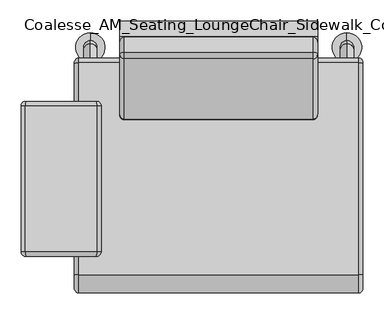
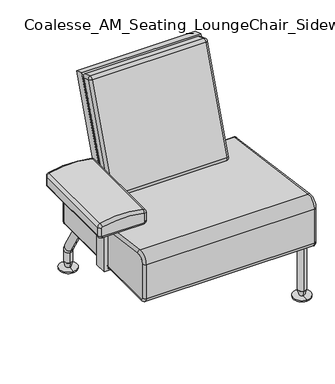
"""IFC4 building model written with IfcOpenShell, lengths in millimetres: furniture geometry, Coalesse_AM_Seating_LoungeChair_Sidewalk_Collaborative : Right Arm."""

from ifc_helpers import new_model, si_unit, point, frame, origin, place, context, project, spatial, polyline, circle_curve, ellipse_curve, trimmed, outline, extrude, source, transform, mapped, element, save
from ifc_brep_helpers import plane_surface, cylinder_surface, revolved_surface, advanced_brep


def coalesse_am_seating_loungechair_sidewalk_collaborative_right_7e27c2d4(model_context):
    return source(origin(), model_context, "Body", "SolidModel", [
        advanced_brep(
        [(122.9089794, 412.7742549, 335.1190448), (122.9089794, 414.1472627, 333.546102), (122.9089794, 414.1472627, 228.6), (122.9089794, 412.5597627, 227.0125), (122.9089794, -114.4902373, 227.0125), (122.9089794, -122.4277373, 234.95), (122.9089794, -122.4277373, 377.1837519), (122.9089794, -91.7938701, 403.9237811), (808.7089794, -91.7938701, 403.9237811), (808.7089794, -122.4277373, 377.1837519), (808.7089794, -122.4277373, 234.95), (808.7089794, -114.4902373, 227.0125), (808.7089794, 412.5597627, 227.0125), (808.7089794, 414.1472627, 228.6), (808.7089794, 414.1472627, 333.546102), (808.7089794, 412.7742549, 335.1190448), (797.5964794, -90.2924248, 414.9343814), (797.5964794, 414.2757002, 346.1296451), (134.0214794, 414.2757002, 346.1296451), (134.0214794, -90.2924248, 414.9343814), (797.5964794, 425.2597627, 333.546102), (134.0214794, 425.2597627, 333.546102), (797.5964794, 425.2597627, 228.6), (134.0214794, 425.2597627, 228.6), (797.5964794, 412.5597627, 215.9), (134.0214794, 412.5597627, 215.9), (797.5964794, -114.4902373, 215.9), (134.0214794, -114.4902373, 215.9), (797.5964794, -133.5402373, 234.95), (134.0214726, -133.5402373, 234.95), (797.5964794, -133.5402373, 377.1837519), (134.0214794, -133.5402373, 377.1837519)],
        [
            (0, 1, circle_curve(frame((122.9089794, 412.5597627, 333.546102), z_axis=(-1.0, 0.0, 0.0), x_axis=(0.0, 0.13511318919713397, 0.9908301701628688)), 1.5875)),
            (1, 2),
            (2, 3, circle_curve(frame((122.9089794, 412.5597627, 228.6), z_axis=(-1.0, 0.0, 0.0), x_axis=(0.0, 1.0, 0.0)), 1.5875)),
            (3, 4),
            (4, 5, circle_curve(frame((122.9089794, -114.4902373, 234.95), z_axis=(-1.0, 0.0, 0.0), x_axis=(0.0, 0.0, -1.0)), 7.9375)),
            (5, 6),
            (6, 7, circle_curve(frame((122.9089794, -95.4402373, 377.1837519), z_axis=(-1.0, 0.0, 0.0), x_axis=(0.0, -1.0, 0.0)), 26.9875)),
            (7, 0),
            (8, 9, circle_curve(frame((808.7089794, -95.4402373, 377.1837519), z_axis=(1.0, 0.0, 0.0), x_axis=(0.0, 0.13511318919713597, 0.9908301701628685)), 26.9875)),
            (9, 10),
            (10, 11, circle_curve(frame((808.7089794, -114.4902373, 234.95), z_axis=(1.0, 0.0, 0.0), x_axis=(0.0, -1.0, 0.0)), 7.9375)),
            (11, 12),
            (12, 13, circle_curve(frame((808.7089794, 412.5597627, 228.6), z_axis=(1.0, 0.0, 0.0), x_axis=(0.0, 0.0, -1.0)), 1.5875)),
            (13, 14),
            (14, 15, circle_curve(frame((808.7089794, 412.5597627, 333.546102), z_axis=(1.0, 0.0, 0.0), x_axis=(0.0, 1.0, 0.0)), 1.5875)),
            (15, 8),
            (16, 17),
            (17, 18),
            (18, 19),
            (19, 16),
            (17, 20, circle_curve(frame((797.5964794, 412.5597627, 333.546102), z_axis=(-1.0, 0.0, 0.0), x_axis=(0.0, -1.0, 0.0)), 12.7)),
            (20, 21),
            (21, 18, circle_curve(frame((134.0214794, 412.5597627, 333.546102), z_axis=(1.0, 0.0, 0.0), x_axis=(0.0, -1.0, 0.0)), 12.7)),
            (20, 22),
            (22, 23),
            (23, 21),
            (22, 24, circle_curve(frame((797.5964794, 412.5597627, 228.6), z_axis=(-1.0, 0.0, 0.0), x_axis=(0.0, -1.0, 0.0)), 12.7)),
            (24, 25),
            (25, 23, circle_curve(frame((134.0214794, 412.5597627, 228.6), z_axis=(1.0, 0.0, 0.0), x_axis=(0.0, -1.0, 0.0)), 12.7)),
            (24, 26),
            (26, 27),
            (27, 25),
            (26, 28, circle_curve(frame((797.5964794, -114.4902373, 234.95), z_axis=(-1.0, 0.0, 0.0), x_axis=(0.0, -1.0, 0.0)), 19.05)),
            (28, 29),
            (29, 27, circle_curve(frame((134.0214794, -114.4902373, 234.95), z_axis=(1.0, 0.0, 0.0), x_axis=(0.0, -1.0, 0.0)), 19.05)),
            (28, 30),
            (30, 31),
            (31, 29),
            (30, 16, circle_curve(frame((797.5964794, -95.4402373, 377.1837519), z_axis=(-1.0, 0.0, 0.0), x_axis=(0.0, -1.0, 0.0)), 38.1)),
            (19, 31, circle_curve(frame((134.0214794, -95.4402373, 377.1837519), z_axis=(1.0, 0.0, 0.0), x_axis=(0.0, -1.0, 0.0)), 38.1)),
            (30, 9, circle_curve(frame((797.5964794, -122.4277373, 377.1837519), z_axis=(0.0, 0.0, 0.9999999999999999), x_axis=(0.0, -0.9999999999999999, 0.0)), 11.1125)),
            (8, 16, circle_curve(frame((797.5964794, -91.7938701, 403.9237811), z_axis=(0.0, -0.9908301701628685, 0.13511318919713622), x_axis=(0.0, 0.13511318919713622, 0.9908301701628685)), 11.1125)),
            (28, 10, circle_curve(frame((797.5964794, -122.4277373, 234.95), z_axis=(0.0, 0.0, 1.0), x_axis=(0.0, -1.0, 0.0)), 11.1125)),
            (26, 11, circle_curve(frame((797.5964794, -114.4902373, 227.0125), z_axis=(0.0, -1.0, 0.0), x_axis=(0.0, 0.0, -1.0)), 11.1125)),
            (24, 12, circle_curve(frame((797.5964794, 412.5597627, 227.0125), z_axis=(0.0, -1.0, 0.0), x_axis=(0.0, 0.0, -1.0)), 11.1125)),
            (22, 13, circle_curve(frame((797.5964794, 414.1472627, 228.6), z_axis=(0.0, 0.0, -1.0), x_axis=(0.0, 1.0, 0.0)), 11.1125)),
            (20, 14, circle_curve(frame((797.5964794, 414.1472627, 333.546102), z_axis=(0.0, 0.0, -1.0), x_axis=(0.0, 1.0, 0.0)), 11.1125)),
            (17, 15, circle_curve(frame((797.5964794, 412.7742549, 335.1190448), z_axis=(0.0, 0.9908301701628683, -0.13511318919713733), x_axis=(0.0, 0.13511318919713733, 0.9908301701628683)), 11.1125)),
            (21, 1, circle_curve(frame((134.0214794, 414.1472627, 333.546102), z_axis=(0.0, 0.0, 1.0), x_axis=(0.0, -1.0, 0.0)), 11.1125)),
            (0, 18, circle_curve(frame((134.0214794, 412.7742549, 335.1190448), z_axis=(0.0, 0.9908301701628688, -0.13511318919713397), x_axis=(0.0, -0.13511318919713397, -0.9908301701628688)), 11.1125)),
            (23, 2, circle_curve(frame((134.0214794, 414.1472627, 228.6), z_axis=(0.0, 0.0, 1.0), x_axis=(0.0, -1.0, 0.0)), 11.1125)),
            (25, 3, circle_curve(frame((134.0214794, 412.5597627, 227.0125), z_axis=(0.0, 1.0, 0.0), x_axis=(0.0, 0.0, 1.0)), 11.1125)),
            (27, 4, circle_curve(frame((134.0214794, -114.4902373, 227.0125), z_axis=(0.0, 1.0, 0.0), x_axis=(0.0, 0.0, 1.0)), 11.1125)),
            (29, 5, circle_curve(frame((134.0214794, -122.4277373, 234.95), z_axis=(0.0, 0.0, -1.0), x_axis=(0.0, 1.0, 0.0)), 11.1125)),
            (31, 6, circle_curve(frame((134.0214794, -122.4277373, 377.1837519), z_axis=(0.0, 0.0, -1.0), x_axis=(0.0, 1.0, 0.0)), 11.1125)),
            (19, 7, circle_curve(frame((134.0214794, -91.7938701, 403.9237811), z_axis=(0.0, -0.9908301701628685, 0.1351131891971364), x_axis=(0.0, -0.1351131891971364, -0.9908301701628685)), 11.1125)),
        ],
        [
            plane_surface(frame((122.9089794, 564.9597627, 325.5818208), z_axis=(-1.0000000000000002, 0.0, 0.0), x_axis=(0.0, 0.9908301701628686, -0.1351131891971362))),
            plane_surface(frame((808.7089794, 564.9597627, 325.5818208), z_axis=(1.0000000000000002, 0.0, 0.0), x_axis=(0.0, -0.9908301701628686, 0.1351131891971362))),
            plane_surface(frame((122.9089794, -90.2924248, 414.9343814), z_axis=(0.0, 0.1351131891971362, 0.9908301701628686), x_axis=(1.0, 0.0, 0.0))),
            cylinder_surface(frame((808.7089794, 412.5597627, 333.546102), z_axis=(-1.0, 0.0, 0.0), x_axis=(0.0, -1.0, 0.0)), 12.7),
            plane_surface(frame((122.9089794, 425.2597627, 333.546102), z_axis=(0.0, 1.0, 0.0), x_axis=(1.0, 0.0, 0.0))),
            cylinder_surface(frame((808.7089794, 412.5597627, 228.6), z_axis=(-1.0, 0.0, 0.0), x_axis=(0.0, -1.0, 0.0)), 12.7),
            plane_surface(frame((122.9089794, 412.5597627, 215.9), z_axis=(0.0, 0.0, -1.0), x_axis=(1.0, 0.0, 0.0))),
            cylinder_surface(frame((808.7089794, -114.4902373, 234.95), z_axis=(-1.0, 0.0, 0.0), x_axis=(0.0, -1.0, 0.0)), 19.05),
            plane_surface(frame((122.9089794, -133.5402373, 234.95), z_axis=(0.0, -1.0, 0.0), x_axis=(1.0, 0.0, 0.0))),
            cylinder_surface(frame((808.7089794, -95.4402373, 377.1837519), z_axis=(-1.0, 0.0, 0.0), x_axis=(0.0, -1.0, 0.0)), 38.1),
            revolved_surface(trimmed(ellipse_curve(frame((797.5964794, -91.7938701, 403.9237811), z_axis=(0.0, 0.9908301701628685, -0.13511318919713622), x_axis=(0.0, 0.13511318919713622, 0.9908301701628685)), 11.1125, 11.1125), [point((797.5964794, -90.2924248, 414.9343814))], [point((808.7089794, -91.7938701, 403.9237811))], True, "CARTESIAN"), (808.7089794, -95.4402373, 377.1837519), (1.0, 0.0, 0.0)),
            cylinder_surface(frame((797.5964794, -122.4277373, 377.1837519), z_axis=(0.0, 0.0, -1.0), x_axis=(0.0, -1.0, 0.0)), 11.1125),
            revolved_surface(trimmed(ellipse_curve(frame((797.5964794, -122.4277373, 234.95), z_axis=(0.0, 0.0, 1.0), x_axis=(0.0, -1.0, 0.0)), 11.1125, 11.1125), [point((797.5964794, -133.5402373, 234.95))], [point((808.7089794, -122.4277373, 234.95))], True, "CARTESIAN"), (808.7089794, -114.4902373, 234.95), (1.0, 0.0, 0.0)),
            cylinder_surface(frame((797.5964794, -114.4902373, 227.0125), z_axis=(0.0, 1.0, 0.0), x_axis=(0.0, 0.0, -1.0)), 11.1125),
            revolved_surface(trimmed(ellipse_curve(frame((797.5964794, 412.5597627, 227.0125), z_axis=(0.0, -1.0, 0.0), x_axis=(0.0, 0.0, -1.0)), 11.1125, 11.1125), [point((797.5964794, 412.5597627, 215.9))], [point((808.7089794, 412.5597627, 227.0125))], True, "CARTESIAN"), (808.7089794, 412.5597627, 228.6), (1.0, 0.0, 0.0)),
            cylinder_surface(frame((797.5964794, 414.1472627, 228.6), z_axis=(0.0, 0.0, 1.0), x_axis=(0.0, 1.0, 0.0)), 11.1125),
            revolved_surface(trimmed(ellipse_curve(frame((797.5964794, 414.1472627, 333.546102), z_axis=(0.0, 0.0, -1.0), x_axis=(0.0, 1.0, 0.0)), 11.1125, 11.1125), [point((797.5964794, 425.2597627, 333.546102))], [point((808.7089794, 414.1472627, 333.546102))], True, "CARTESIAN"), (808.7089794, 412.5597627, 333.546102), (1.0, 0.0, 0.0)),
            cylinder_surface(frame((797.5964794, 412.7742549, 335.1190448), z_axis=(0.0, -0.9908301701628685, 0.13511318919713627), x_axis=(0.0, 0.13511318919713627, 0.9908301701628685)), 11.1125),
            revolved_surface(trimmed(ellipse_curve(frame((134.0214794, 412.7742549, 335.1190448), z_axis=(0.0, -0.9908301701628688, 0.13511318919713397), x_axis=(0.0, -0.13511318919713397, -0.9908301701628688)), 11.1125, 11.1125), [point((134.0214794, 414.2757002, 346.1296451))], [point((122.9089794, 412.7742549, 335.1190448))], True, "CARTESIAN"), (122.9089794, 412.5597627, 333.546102), (-1.0, 0.0, 0.0)),
            cylinder_surface(frame((134.0214794, 414.1472627, 333.546102), z_axis=(0.0, 0.0, -1.0), x_axis=(0.0, -1.0, 0.0)), 11.1125),
            revolved_surface(trimmed(ellipse_curve(frame((134.0214794, 414.1472627, 228.6), z_axis=(0.0, 0.0, 1.0), x_axis=(0.0, -1.0, 0.0)), 11.1125, 11.1125), [point((134.0214794, 425.2597627, 228.6))], [point((122.9089794, 414.1472627, 228.6))], True, "CARTESIAN"), (122.9089794, 412.5597627, 228.6), (-1.0, 0.0, 0.0)),
            cylinder_surface(frame((134.0214794, 412.5597627, 227.0125), z_axis=(0.0, -1.0, 0.0), x_axis=(0.0, 0.0, 1.0)), 11.1125),
            revolved_surface(trimmed(ellipse_curve(frame((134.0214794, -114.4902373, 227.0125), z_axis=(0.0, 1.0, 0.0), x_axis=(0.0, 0.0, 1.0)), 11.1125, 11.1125), [point((134.0214794, -114.4902373, 215.9))], [point((122.9089794, -114.4902373, 227.0125))], True, "CARTESIAN"), (122.9089794, -114.4902373, 234.95), (-1.0, 0.0, 0.0)),
            cylinder_surface(frame((134.0214794, -122.4277373, 234.95), z_axis=(0.0, 0.0, 1.0), x_axis=(0.0, 1.0, 0.0)), 11.1125),
            revolved_surface(trimmed(ellipse_curve(frame((134.0214794, -122.4277373, 377.1837519), z_axis=(0.0, 0.0, -1.0), x_axis=(0.0, 1.0, 0.0)), 11.1125, 11.1125), [point((134.0214794, -133.5402373, 377.1837519))], [point((122.9089794, -122.4277373, 377.1837519))], True, "CARTESIAN"), (122.9089794, -95.4402373, 377.1837519), (-1.0, 0.0, 0.0)),
            cylinder_surface(frame((134.0214794, -91.7938701, 403.9237811), z_axis=(0.0, 0.9908301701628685, -0.1351131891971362), x_axis=(0.0, -0.1351131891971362, -0.9908301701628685)), 11.1125),
        ],
        [
            (0, [[1, 2, 3, 4, 5, 6, 7, 8]]),
            (1, [[9, 10, 11, 12, 13, 14, 15, 16]]),
            (2, [[17, 18, 19, 20]]),
            (3, [[21, 22, 23, -18]]),
            (4, [[24, 25, 26, -22]]),
            (5, [[27, 28, 29, -25]]),
            (6, [[30, 31, 32, -28]]),
            (7, [[33, 34, 35, -31]]),
            (8, [[36, 37, 38, -34]]),
            (9, [[39, -20, 40, -37]]),
            (10, [[41, -9, 42, -39]]),
            (11, [[-41, -36, 43, -10]]),
            (12, [[-43, -33, 44, -11]]),
            (13, [[-44, -30, 45, -12]]),
            (14, [[-45, -27, 46, -13]]),
            (15, [[-46, -24, 47, -14]]),
            (16, [[-47, -21, 48, -15]]),
            (17, [[-42, -16, -48, -17]]),
            (18, [[49, -1, 50, -23]]),
            (19, [[-49, -26, 51, -2]]),
            (20, [[-51, -29, 52, -3]]),
            (21, [[-52, -32, 53, -4]]),
            (22, [[-53, -35, 54, -5]]),
            (23, [[-54, -38, 55, -6]]),
            (24, [[-55, -40, 56, -7]]),
            (25, [[-50, -8, -56, -19]]),
        ],
    ),
        advanced_brep(
        [(8.8567727, -46.3480901, 525.1102695), (7.6454268, -46.3480901, 523.5679776), (7.6454268, -46.3480901, 488.95), (9.2329268, -46.3480901, 487.3625), (174.3329268, -46.3480901, 487.3625), (175.9204268, -46.3480901, 488.95), (175.9204268, -46.3480901, 523.5679776), (174.7090809, -46.3480901, 525.1102695), (174.7090809, 321.9519099, 525.1102695), (175.9204268, 321.9519099, 523.5679776), (175.9204268, 321.9519099, 488.95), (174.3329268, 321.9519099, 487.3625), (9.2329268, 321.9519099, 487.3625), (7.6454268, 321.9519099, 488.95), (7.6454268, 321.9519099, 523.5679776), (8.8567727, 321.9519099, 525.1102695), (174.3329268, 310.8394099, 476.25), (187.0329268, 310.8394099, 488.95), (187.0329268, -35.2355901, 488.95), (174.3329268, -35.2355901, 476.25), (187.0329268, 310.8394099, 523.5679776), (187.0329268, -35.2355901, 523.5679776), (177.3421596, 310.8394099, 535.9063129), (177.3421596, -35.2355901, 535.9063129), (6.2236939, 310.8394099, 535.9063129), (6.2236939, -35.2355901, 535.9063129), (-3.4670732, 310.8394099, 523.5679776), (-3.4670732, -35.2355901, 523.5679776), (-3.4670732, 310.8394099, 488.95), (-3.4670732, -35.2355901, 488.95), (9.2329268, 310.8394099, 476.25), (9.2329268, -35.2355901, 476.25)],
        [
            (0, 1, circle_curve(frame((9.2329268, -46.3480901, 523.5679776), z_axis=(0.0, -1.0, 0.0), x_axis=(-0.23694746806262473, 0.0, 0.9715224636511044)), 1.5875)),
            (1, 2),
            (2, 3, circle_curve(frame((9.2329268, -46.3480901, 488.95), z_axis=(0.0, -1.0, 0.0), x_axis=(-1.0, 0.0, 0.0)), 1.5875)),
            (3, 4),
            (4, 5, circle_curve(frame((174.3329268, -46.3480901, 488.95), z_axis=(0.0, -1.0, 0.0), x_axis=(0.0, 0.0, -1.0)), 1.5875)),
            (5, 6),
            (6, 7, circle_curve(frame((174.3329268, -46.3480901, 523.5679776), z_axis=(0.0, -1.0, 0.0), x_axis=(1.0, 0.0, 0.0)), 1.5875)),
            (7, 0, circle_curve(frame((91.7829268, -46.3480901, 185.0997929), z_axis=(0.0, -1.0, 0.0), x_axis=(0.2369474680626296, 0.0, 0.9715224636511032)), 349.9769581)),
            (8, 9, circle_curve(frame((174.3329268, 321.9519099, 523.5679776), z_axis=(0.0, 1.0, 0.0), x_axis=(0.23694746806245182, 0.0, 0.9715224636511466)), 1.5875)),
            (9, 10),
            (10, 11, circle_curve(frame((174.3329268, 321.9519099, 488.95), z_axis=(0.0, 1.0, 0.0), x_axis=(1.0, 0.0, 0.0)), 1.5875)),
            (11, 12),
            (12, 13, circle_curve(frame((9.2329268, 321.9519099, 488.95), z_axis=(0.0, 1.0, 0.0), x_axis=(0.0, 0.0, -1.0)), 1.5875)),
            (13, 14),
            (14, 15, circle_curve(frame((9.2329268, 321.9519099, 523.5679776), z_axis=(0.0, 1.0, 0.0), x_axis=(-1.0, 0.0, 0.0)), 1.5875)),
            (15, 8, circle_curve(frame((91.7829268, 321.9519099, 185.0997929), z_axis=(0.0, 1.0, 0.0), x_axis=(-0.23694746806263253, 0.0, 0.9715224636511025)), 349.9769581)),
            (16, 17, circle_curve(frame((174.3329268, 310.8394099, 488.95), z_axis=(0.0, -1.0, 0.0), x_axis=(1.0, 0.0, 0.0)), 12.7)),
            (17, 18),
            (18, 19, circle_curve(frame((174.3329268, -35.2355901, 488.95), z_axis=(0.0, 1.0, 0.0), x_axis=(1.0, 0.0, 0.0)), 12.7)),
            (19, 16),
            (17, 20),
            (20, 21),
            (21, 18),
            (20, 22, circle_curve(frame((174.3329268, 310.8394099, 523.5679776), z_axis=(0.0, -1.0, 0.0), x_axis=(1.0, 0.0, 0.0)), 12.7)),
            (22, 23),
            (23, 21, circle_curve(frame((174.3329268, -35.2355901, 523.5679776), z_axis=(0.0, 1.0, 0.0), x_axis=(1.0, 0.0, 0.0)), 12.7)),
            (22, 24, circle_curve(frame((91.7829268, 310.8394099, 185.0997929), z_axis=(0.0, -1.0, 0.0), x_axis=(1.0, 0.0, 0.0)), 361.0894581)),
            (24, 25),
            (25, 23, circle_curve(frame((91.7829268, -35.2355901, 185.0997929), z_axis=(0.0, 1.0, 0.0), x_axis=(1.0, 0.0, 0.0)), 361.0894581)),
            (24, 26, circle_curve(frame((9.2329268, 310.8394099, 523.5679776), z_axis=(0.0, -1.0, 0.0), x_axis=(1.0, 0.0, 0.0)), 12.7)),
            (26, 27),
            (27, 25, circle_curve(frame((9.2329268, -35.2355901, 523.5679776), z_axis=(0.0, 1.0, 0.0), x_axis=(1.0, 0.0, 0.0)), 12.7)),
            (26, 28),
            (28, 29),
            (29, 27),
            (28, 30, circle_curve(frame((9.2329268, 310.8394099, 488.95), z_axis=(0.0, -1.0, 0.0), x_axis=(1.0, 0.0, 0.0)), 12.7)),
            (30, 31),
            (31, 29, circle_curve(frame((9.2329268, -35.2355901, 488.95), z_axis=(0.0, 1.0, 0.0), x_axis=(1.0, 0.0, 0.0)), 12.7)),
            (30, 16),
            (19, 31),
            (20, 9, circle_curve(frame((175.9204268, 310.8394099, 523.5679776), z_axis=(0.0, 0.0, 1.0), x_axis=(1.0, 0.0, 0.0)), 11.1125)),
            (8, 22, circle_curve(frame((174.7090809, 310.8394099, 525.1102695), z_axis=(0.9715224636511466, 0.0, -0.23694746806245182), x_axis=(0.23694746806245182, 0.0, 0.9715224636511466)), 11.1125)),
            (17, 10, circle_curve(frame((175.9204268, 310.8394099, 488.95), z_axis=(0.0, 0.0, 1.0), x_axis=(1.0, 0.0, 0.0)), 11.1125)),
            (16, 11, circle_curve(frame((174.3329268, 310.8394099, 487.3625), z_axis=(1.0, 0.0, 0.0), x_axis=(0.0, 0.0, -1.0)), 11.1125)),
            (30, 12, circle_curve(frame((9.2329268, 310.8394099, 487.3625), z_axis=(1.0, 0.0, 0.0), x_axis=(0.0, 0.0, -1.0)), 11.1125)),
            (28, 13, circle_curve(frame((7.6454268, 310.8394099, 488.95), z_axis=(0.0, 0.0, -1.0), x_axis=(-1.0, 0.0, 0.0)), 11.1125)),
            (26, 14, circle_curve(frame((7.6454268, 310.8394099, 523.5679776), z_axis=(0.0, 0.0, -1.0), x_axis=(-1.0, 0.0, 0.0)), 11.1125)),
            (24, 15, circle_curve(frame((8.8567727, 310.8394099, 525.1102695), z_axis=(-0.9715224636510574, 0.0, -0.23694746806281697), x_axis=(-0.23694746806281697, 0.0, 0.9715224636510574)), 11.1125)),
            (27, 1, circle_curve(frame((7.6454268, -35.2355901, 523.5679776), z_axis=(0.0, 0.0, 1.0), x_axis=(1.0, 0.0, 0.0)), 11.1125)),
            (0, 25, circle_curve(frame((8.8567727, -35.2355901, 525.1102695), z_axis=(-0.9715224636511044, 0.0, -0.2369474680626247), x_axis=(0.2369474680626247, 0.0, -0.9715224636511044)), 11.1125)),
            (29, 2, circle_curve(frame((7.6454268, -35.2355901, 488.95), z_axis=(0.0, 0.0, 1.0), x_axis=(1.0, 0.0, 0.0)), 11.1125)),
            (31, 3, circle_curve(frame((9.2329268, -35.2355901, 487.3625), z_axis=(-1.0, 0.0, 0.0), x_axis=(0.0, 0.0, 1.0)), 11.1125)),
            (19, 4, circle_curve(frame((174.3329268, -35.2355901, 487.3625), z_axis=(-1.0, 0.0, 0.0), x_axis=(0.0, 0.0, 1.0)), 11.1125)),
            (18, 5, circle_curve(frame((175.9204268, -35.2355901, 488.95), z_axis=(0.0, 0.0, -1.0), x_axis=(-1.0, 0.0, 0.0)), 11.1125)),
            (21, 6, circle_curve(frame((175.9204268, -35.2355901, 523.5679776), z_axis=(0.0, 0.0, -1.0), x_axis=(-1.0, 0.0, 0.0)), 11.1125)),
            (23, 7, circle_curve(frame((174.7090809, -35.2355901, 525.1102695), z_axis=(0.971522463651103, 0.0, -0.23694746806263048), x_axis=(-0.23694746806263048, 0.0, -0.971522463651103)), 11.1125)),
        ],
        [
            plane_surface(frame((187.0329268, -46.3480901, 488.95), z_axis=(0.0, -1.0, 0.0), x_axis=(0.0, 0.0, 1.0))),
            plane_surface(frame((187.0329268, 321.9519099, 488.95), z_axis=(0.0, 1.0, 0.0), x_axis=(0.0, 0.0, -1.0))),
            cylinder_surface(frame((174.3329268, 321.9519099, 488.95), z_axis=(0.0, -1.0, 0.0), x_axis=(1.0, 0.0, 0.0)), 12.7),
            plane_surface(frame((187.0329268, -46.3480901, 488.95), z_axis=(1.0, 0.0, 0.0), x_axis=(0.0, 1.0, 0.0))),
            cylinder_surface(frame((174.3329268, 321.9519099, 523.5679776), z_axis=(0.0, -1.0, 0.0), x_axis=(1.0, 0.0, 0.0)), 12.7),
            cylinder_surface(frame((91.7829268, 321.9519099, 185.0997929), z_axis=(0.0, -1.0, 0.0), x_axis=(1.0, 0.0, 0.0)), 361.0894581),
            cylinder_surface(frame((9.2329268, 321.9519099, 523.5679776), z_axis=(0.0, -1.0, 0.0), x_axis=(1.0, 0.0, 0.0)), 12.7),
            plane_surface(frame((-3.4670732, -46.3480901, 523.5679776), z_axis=(-1.0, 0.0, 0.0), x_axis=(0.0, 1.0, 0.0))),
            cylinder_surface(frame((9.2329268, 321.9519099, 488.95), z_axis=(0.0, -1.0, 0.0), x_axis=(1.0, 0.0, 0.0)), 12.7),
            plane_surface(frame((9.2329268, -46.3480901, 476.25), z_axis=(0.0, 0.0, -1.0), x_axis=(0.0, 1.0, 0.0))),
            revolved_surface(trimmed(ellipse_curve(frame((174.7090809, 310.8394099, 525.1102695), z_axis=(-0.9715224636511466, 0.0, 0.23694746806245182), x_axis=(0.23694746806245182, 0.0, 0.9715224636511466)), 11.1125, 11.1125), [point((177.3421596, 310.8394099, 535.9063129))], [point((174.7090809, 321.9519099, 525.1102695))], True, "CARTESIAN"), (174.3329268, 321.9519099, 523.5679776), (0.0, 1.0, 0.0)),
            cylinder_surface(frame((175.9204268, 310.8394099, 523.5679776), z_axis=(0.0, 0.0, -1.0), x_axis=(1.0, 0.0, 0.0)), 11.1125),
            revolved_surface(trimmed(ellipse_curve(frame((175.9204268, 310.8394099, 488.95), z_axis=(0.0, 0.0, 1.0), x_axis=(1.0, 0.0, 0.0)), 11.1125, 11.1125), [point((187.0329268, 310.8394099, 488.95))], [point((175.9204268, 321.9519099, 488.95))], True, "CARTESIAN"), (174.3329268, 321.9519099, 488.95), (0.0, 1.0, 0.0)),
            cylinder_surface(frame((174.3329268, 310.8394099, 487.3625), z_axis=(-1.0, 0.0, 0.0), x_axis=(0.0, 0.0, -1.0)), 11.1125),
            revolved_surface(trimmed(ellipse_curve(frame((9.2329268, 310.8394099, 487.3625), z_axis=(1.0, 0.0, 0.0), x_axis=(0.0, 0.0, -1.0)), 11.1125, 11.1125), [point((9.2329268, 310.8394099, 476.25))], [point((9.2329268, 321.9519099, 487.3625))], True, "CARTESIAN"), (9.2329268, 321.9519099, 488.95), (0.0, 1.0, 0.0)),
            cylinder_surface(frame((7.6454268, 310.8394099, 488.95), z_axis=(0.0, 0.0, 1.0), x_axis=(-1.0, 0.0, 0.0)), 11.1125),
            revolved_surface(trimmed(ellipse_curve(frame((7.6454268, 310.8394099, 523.5679776), z_axis=(0.0, 0.0, -1.0), x_axis=(-1.0, 0.0, 0.0)), 11.1125, 11.1125), [point((-3.4670732, 310.8394099, 523.5679776))], [point((7.6454268, 321.9519099, 523.5679776))], True, "CARTESIAN"), (9.2329268, 321.9519099, 523.5679776), (0.0, 1.0, 0.0)),
            revolved_surface(trimmed(ellipse_curve(frame((8.8567727, 310.8394099, 525.1102695), z_axis=(-0.9715224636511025, 0.0, -0.23694746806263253), x_axis=(-0.23694746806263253, 0.0, 0.9715224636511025)), 11.1125, 11.1125), [point((6.2236939, 310.8394099, 535.9063129))], [point((8.8567727, 321.9519099, 525.1102695))], True, "CARTESIAN"), (91.7829268, 321.9519099, 185.0997929), (0.0, 1.0, 0.0)),
            revolved_surface(trimmed(ellipse_curve(frame((8.8567727, -35.2355901, 525.1102695), z_axis=(0.9715224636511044, 0.0, 0.2369474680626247), x_axis=(0.2369474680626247, 0.0, -0.9715224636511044)), 11.1125, 11.1125), [point((6.2236939, -35.2355901, 535.9063129))], [point((8.8567727, -46.3480901, 525.1102695))], True, "CARTESIAN"), (9.2329268, -46.3480901, 523.5679776), (0.0, -1.0, 0.0)),
            cylinder_surface(frame((7.6454268, -35.2355901, 523.5679776), z_axis=(0.0, 0.0, -1.0), x_axis=(1.0, 0.0, 0.0)), 11.1125),
            revolved_surface(trimmed(ellipse_curve(frame((7.6454268, -35.2355901, 488.95), z_axis=(0.0, 0.0, 1.0), x_axis=(1.0, 0.0, 0.0)), 11.1125, 11.1125), [point((-3.4670732, -35.2355901, 488.95))], [point((7.6454268, -46.3480901, 488.95))], True, "CARTESIAN"), (9.2329268, -46.3480901, 488.95), (0.0, -1.0, 0.0)),
            cylinder_surface(frame((9.2329268, -35.2355901, 487.3625), z_axis=(1.0, 0.0, 0.0), x_axis=(0.0, 0.0, 1.0)), 11.1125),
            revolved_surface(trimmed(ellipse_curve(frame((174.3329268, -35.2355901, 487.3625), z_axis=(-1.0, 0.0, 0.0), x_axis=(0.0, 0.0, 1.0)), 11.1125, 11.1125), [point((174.3329268, -35.2355901, 476.25))], [point((174.3329268, -46.3480901, 487.3625))], True, "CARTESIAN"), (174.3329268, -46.3480901, 488.95), (0.0, -1.0, 0.0)),
            cylinder_surface(frame((175.9204268, -35.2355901, 488.95), z_axis=(0.0, 0.0, 1.0), x_axis=(-1.0, 0.0, 0.0)), 11.1125),
            revolved_surface(trimmed(ellipse_curve(frame((175.9204268, -35.2355901, 523.5679776), z_axis=(0.0, 0.0, -1.0), x_axis=(-1.0, 0.0, 0.0)), 11.1125, 11.1125), [point((187.0329268, -35.2355901, 523.5679776))], [point((175.9204268, -46.3480901, 523.5679776))], True, "CARTESIAN"), (174.3329268, -46.3480901, 523.5679776), (0.0, -1.0, 0.0)),
            revolved_surface(trimmed(ellipse_curve(frame((174.7090809, -35.2355901, 525.1102695), z_axis=(0.9715224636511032, 0.0, -0.23694746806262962), x_axis=(-0.23694746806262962, 0.0, -0.9715224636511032)), 11.1125, 11.1125), [point((177.3421596, -35.2355901, 535.9063129))], [point((174.7090809, -46.3480901, 525.1102695))], True, "CARTESIAN"), (91.7829268, -46.3480901, 185.0997929), (0.0, -1.0, 0.0)),
        ],
        [
            (0, [[1, 2, 3, 4, 5, 6, 7, 8]]),
            (1, [[9, 10, 11, 12, 13, 14, 15, 16]]),
            (2, [[17, 18, 19, 20]]),
            (3, [[21, 22, 23, -18]]),
            (4, [[24, 25, 26, -22]]),
            (5, [[27, 28, 29, -25]]),
            (6, [[30, 31, 32, -28]]),
            (7, [[33, 34, 35, -31]]),
            (8, [[36, 37, 38, -34]]),
            (9, [[39, -20, 40, -37]]),
            (10, [[41, -9, 42, -24]]),
            (11, [[-41, -21, 43, -10]]),
            (12, [[-43, -17, 44, -11]]),
            (13, [[-44, -39, 45, -12]]),
            (14, [[-45, -36, 46, -13]]),
            (15, [[-46, -33, 47, -14]]),
            (16, [[-47, -30, 48, -15]]),
            (17, [[-42, -16, -48, -27]]),
            (18, [[49, -1, 50, -32]]),
            (19, [[-49, -35, 51, -2]]),
            (20, [[-51, -38, 52, -3]]),
            (21, [[-52, -40, 53, -4]]),
            (22, [[-53, -19, 54, -5]]),
            (23, [[-54, -23, 55, -6]]),
            (24, [[-55, -26, 56, -7]]),
            (25, [[-50, -8, -56, -29]]),
        ],
    ),
        extrude(outline(polyline([(207.2866207, 109.0164921), (207.2866207, 197.9164921), (213.6366207, 197.9164921), (213.6366207, 121.7164921), (476.25, 121.7164921), (476.25, 109.0164921), (207.2866207, 109.0164921)])), frame((0.0, 112.4019099, 0.0), z_axis=(0.0, 1.0, 0.0), x_axis=(0.0, 0.0, 1.0)), (0.0, 0.0, 1.0), 50.8),
        advanced_brep(
        [(230.8589764, 435.601958, 772.4897206), (230.8589764, 460.9619318, 763.2594642), (230.8589764, 317.9995565, 370.4735514), (230.8589764, 290.9791404, 374.1581532), (230.8589764, 289.7018705, 376.274053), (230.8589764, 433.56724, 771.5409151), (700.7589825, 289.7018705, 376.274053), (700.7589825, 290.9791404, 374.1581532), (700.7589825, 317.9995565, 370.4735514), (700.7589825, 460.9619318, 763.2594642), (700.7589825, 435.601958, 772.4897206), (700.7589825, 433.56724, 771.5409151), (241.9714764, 475.2049673, 769.9011067), (241.9714764, 439.4026498, 782.9320574), (689.6464825, 439.4026498, 782.9320574), (689.6464825, 475.2049673, 769.9011067), (241.9714764, 325.3770207, 358.2521909), (689.6464825, 325.3770207, 358.2521909), (241.9714764, 289.477695, 363.1475529), (689.6464825, 289.477695, 363.1475529), (241.9714764, 279.2595362, 380.0747518), (689.6464825, 279.2595362, 380.0747518), (241.9714764, 423.1249057, 775.3416139), (689.6464825, 423.1249057, 775.3416139)],
        [
            (0, 1),
            (1, 2),
            (2, 3),
            (3, 4, circle_curve(frame((230.8589764, 291.1936325, 375.7310961), z_axis=(-1.0, 0.0, 0.0), x_axis=(0.0, -0.13511318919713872, -0.9908301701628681)), 1.5875)),
            (4, 5),
            (5, 0, circle_curve(frame((230.8589764, 435.059002, 770.9979582), z_axis=(-1.0, 0.0, 0.0), x_axis=(0.0, -0.9396926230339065, 0.3420201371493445)), 1.5875)),
            (6, 7, circle_curve(frame((700.7589825, 291.1936325, 375.7310961), z_axis=(1.0, 0.0, 0.0), x_axis=(0.0, -0.9396926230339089, 0.3420201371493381)), 1.5875)),
            (7, 8),
            (8, 9),
            (9, 10),
            (10, 11, circle_curve(frame((700.7589825, 435.059002, 770.9979582), z_axis=(1.0, 0.0, 0.0), x_axis=(0.0, 0.34201951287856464, 0.939692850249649)), 1.5875)),
            (11, 6),
            (12, 13),
            (13, 14),
            (14, 15),
            (15, 12),
            (16, 12),
            (15, 17),
            (17, 16),
            (18, 16),
            (17, 19),
            (19, 18),
            (20, 18, circle_curve(frame((241.9714764, 291.1936325, 375.7310961), z_axis=(1.0, 0.0, 0.0), x_axis=(0.0, -1.0, 0.0)), 12.7)),
            (19, 21, circle_curve(frame((689.6464825, 291.1936325, 375.7310961), z_axis=(-1.0, 0.0, 0.0), x_axis=(0.0, -1.0, 0.0)), 12.7)),
            (21, 20),
            (22, 20),
            (21, 23),
            (23, 22),
            (13, 22, circle_curve(frame((241.9714764, 435.059002, 770.9979582), z_axis=(1.0, 0.0, 0.0), x_axis=(0.0, -1.0, 0.0)), 12.7)),
            (23, 14, circle_curve(frame((689.6464825, 435.059002, 770.9979582), z_axis=(-1.0, 0.0, 0.0), x_axis=(0.0, -1.0, 0.0)), 12.7)),
            (12, 1, ellipse_curve(frame((241.9714764, 460.9619318, 763.2594642), z_axis=(0.0, -0.4226185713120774, 0.9063076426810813), x_axis=(0.0, 0.9063076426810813, 0.4226185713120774)), 15.7154534, 11.1125)),
            (0, 13, circle_curve(frame((241.9714764, 435.601958, 772.4897206), z_axis=(0.0, 0.9396928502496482, -0.34201951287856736), x_axis=(0.0, -0.3420195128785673, -0.939692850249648)), 11.1125)),
            (16, 2, ellipse_curve(frame((241.9714764, 317.9995565, 370.4735514), z_axis=(0.0, 0.8561100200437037, 0.5167936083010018), x_axis=(0.0, 0.5167936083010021, -0.8561100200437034)), 14.2754555, 11.1125)),
            (18, 3, circle_curve(frame((241.9714764, 290.9791404, 374.1581532), z_axis=(0.0, 0.9908301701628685, -0.13511318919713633), x_axis=(0.0, 0.13511318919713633, 0.9908301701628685)), 11.1125)),
            (20, 4, circle_curve(frame((241.9714764, 289.7018705, 376.274053), z_axis=(0.0, -0.34202013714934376, -0.9396926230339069), x_axis=(0.0, 0.9396926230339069, -0.34202013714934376)), 11.1125)),
            (22, 5, circle_curve(frame((241.9714764, 433.56724, 771.5409151), z_axis=(0.0, -0.34202013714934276, -0.9396926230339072), x_axis=(0.0, 0.9396926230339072, -0.34202013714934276)), 11.1125)),
            (19, 7, circle_curve(frame((689.6464825, 290.9791404, 374.1581532), z_axis=(0.0, -0.9908301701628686, 0.13511318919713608), x_axis=(0.0, -0.13511318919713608, -0.9908301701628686)), 11.1125)),
            (6, 21, circle_curve(frame((689.6464825, 289.7018705, 376.274053), z_axis=(0.0, -0.34202013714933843, -0.9396926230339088), x_axis=(0.0, -0.9396926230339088, 0.34202013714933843)), 11.1125)),
            (17, 8, ellipse_curve(frame((689.6464825, 317.9995565, 370.4735514), z_axis=(0.0, -0.8561100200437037, -0.5167936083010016), x_axis=(0.0, 0.5167936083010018, -0.8561100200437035)), 14.2754555, 11.1125)),
            (15, 9, ellipse_curve(frame((689.6464825, 460.9619318, 763.2594642), z_axis=(0.0, 0.4226185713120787, -0.9063076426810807), x_axis=(0.0, 0.9063076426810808, 0.42261857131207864)), 15.7154534, 11.1125)),
            (14, 10, circle_curve(frame((689.6464825, 435.601958, 772.4897206), z_axis=(0.0, 0.9396928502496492, -0.3420195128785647), x_axis=(0.0, 0.34201951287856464, 0.939692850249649)), 11.1125)),
            (23, 11, circle_curve(frame((689.6464825, 433.56724, 771.5409151), z_axis=(0.0, 0.34202013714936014, 0.9396926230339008), x_axis=(0.0, -0.9396926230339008, 0.34202013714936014)), 11.1125)),
        ],
        [
            plane_surface(frame((230.8589764, 476.9677554, 769.2595057), z_axis=(-1.0, 0.0, 0.0), x_axis=(0.0, 0.9396928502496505, -0.3420195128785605))),
            plane_surface(frame((700.7589825, 476.9677554, 769.2595057), z_axis=(1.0, 0.0, 0.0), x_axis=(0.0, -0.9396928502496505, 0.3420195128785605))),
            plane_surface(frame((230.8589764, 439.4026498, 782.9320574), z_axis=(0.0, 0.3420195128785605, 0.9396928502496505), x_axis=(1.0, 0.0, 0.0))),
            plane_surface(frame((230.8589764, 475.2049673, 769.9011067), z_axis=(0.0, 0.939692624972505, -0.34202013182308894), x_axis=(1.0, 0.0, 0.0))),
            plane_surface(frame((230.8589764, 325.3770207, 358.2521909), z_axis=(0.0, -0.13511318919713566, -0.9908301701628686), x_axis=(1.0, 0.0, 0.0))),
            cylinder_surface(frame((700.7589825, 291.1936325, 375.7310961), z_axis=(-1.0, 0.0, 0.0), x_axis=(0.0, -1.0, 0.0)), 12.7),
            plane_surface(frame((230.8589764, 279.2595362, 380.0747518), z_axis=(0.0, -0.9396926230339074, 0.3420201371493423), x_axis=(1.0, 0.0, 0.0))),
            cylinder_surface(frame((700.7589825, 435.059002, 770.9979582), z_axis=(-1.0, 0.0, 0.0), x_axis=(0.0, -1.0, 0.0)), 12.7),
            cylinder_surface(frame((241.9714764, 435.601958, 772.4897206), z_axis=(0.0, 0.939692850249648, -0.3420195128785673), x_axis=(0.0, -0.3420195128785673, -0.939692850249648)), 11.1125),
            cylinder_surface(frame((241.9714764, 464.762633, 773.7018054), z_axis=(0.0, -0.3420201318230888, -0.939692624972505), x_axis=(0.0, -0.939692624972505, 0.3420201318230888)), 11.1125),
            cylinder_surface(frame((241.9714764, 326.878466, 369.2627912), z_axis=(0.0, -0.9908301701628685, 0.13511318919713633), x_axis=(0.0, 0.13511318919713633, 0.9908301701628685)), 11.1125),
            revolved_surface(trimmed(ellipse_curve(frame((241.9714764, 290.9791404, 374.1581532), z_axis=(0.0, 0.9908301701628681, -0.1351131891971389), x_axis=(0.0, 0.1351131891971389, 0.9908301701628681)), 11.1125, 11.1125), [point((241.9714764, 289.477695, 363.1475529))], [point((230.8589764, 290.9791404, 374.1581532))], True, "CARTESIAN"), (230.8589764, 291.1936325, 375.7310961), (-1.0, 0.0, 0.0)),
            cylinder_surface(frame((241.9714764, 289.7018705, 376.274053), z_axis=(0.0, 0.34202013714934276, 0.9396926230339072), x_axis=(0.0, 0.9396926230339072, -0.34202013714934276)), 11.1125),
            revolved_surface(trimmed(ellipse_curve(frame((241.9714764, 433.56724, 771.5409151), z_axis=(0.0, -0.342020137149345, -0.9396926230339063), x_axis=(0.0, 0.9396926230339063, -0.342020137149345)), 11.1125, 11.1125), [point((241.9714764, 423.1249057, 775.3416139))], [point((230.8589764, 433.56724, 771.5409151))], True, "CARTESIAN"), (230.8589764, 435.059002, 770.9979582), (-1.0, 0.0, 0.0)),
            revolved_surface(trimmed(ellipse_curve(frame((689.6464825, 289.7018705, 376.274053), z_axis=(0.0, 0.34202013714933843, 0.9396926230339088), x_axis=(0.0, -0.9396926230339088, 0.34202013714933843)), 11.1125, 11.1125), [point((689.6464825, 279.2595362, 380.0747518))], [point((700.7589825, 289.7018705, 376.274053))], True, "CARTESIAN"), (700.7589825, 291.1936325, 375.7310961), (1.0, 0.0, 0.0)),
            cylinder_surface(frame((689.6464825, 290.9791404, 374.1581532), z_axis=(0.0, 0.9908301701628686, -0.1351131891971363), x_axis=(0.0, -0.1351131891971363, -0.9908301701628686)), 11.1125),
            cylinder_surface(frame((689.6464825, 314.9346864, 362.0528896), z_axis=(0.0, 0.34202013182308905, 0.9396926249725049), x_axis=(0.0, 0.9396926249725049, -0.34202013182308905)), 11.1125),
            cylinder_surface(frame((689.6464825, 471.4042755, 759.4587699), z_axis=(0.0, -0.939692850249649, 0.34201951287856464), x_axis=(0.0, 0.34201951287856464, 0.939692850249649)), 11.1125),
            revolved_surface(trimmed(ellipse_curve(frame((689.6464825, 435.601958, 772.4897206), z_axis=(0.0, 0.939692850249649, -0.3420195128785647), x_axis=(0.0, 0.3420195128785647, 0.939692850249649)), 11.1125, 11.1125), [point((689.6464825, 439.4026498, 782.9320574))], [point((700.7589825, 435.601958, 772.4897206))], True, "CARTESIAN"), (700.7589825, 435.059002, 770.9979582), (1.0, 0.0, 0.0)),
            cylinder_surface(frame((689.6464825, 433.56724, 771.5409151), z_axis=(0.0, -0.34202013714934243, -0.9396926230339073), x_axis=(0.0, -0.9396926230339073, 0.34202013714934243)), 11.1125),
        ],
        [
            (0, [[1, 2, 3, 4, 5, 6]]),
            (1, [[7, 8, 9, 10, 11, 12]]),
            (2, [[13, 14, 15, 16]]),
            (3, [[17, -16, 18, 19]]),
            (4, [[20, -19, 21, 22]]),
            (5, [[23, -22, 24, 25]]),
            (6, [[26, -25, 27, 28]]),
            (7, [[29, -28, 30, -14]]),
            (8, [[31, -1, 32, -13]]),
            (9, [[-31, -17, 33, -2]]),
            (10, [[-33, -20, 34, -3]]),
            (11, [[-34, -23, 35, -4]]),
            (12, [[-35, -26, 36, -5]]),
            (13, [[-32, -6, -36, -29]]),
            (14, [[37, -7, 38, -24]]),
            (15, [[-37, -21, 39, -8]]),
            (16, [[-39, -18, 40, -9]]),
            (17, [[-40, -15, 41, -10]]),
            (18, [[-41, -30, 42, -11]]),
            (19, [[-38, -12, -42, -27]]),
        ],
    ),
        extrude(outline(polyline([(513.2448372, 763.0177625), (364.0049937, 352.9847407), (325.3770207, 358.2521909), (477.4425175, 776.0487255), (513.2448372, 763.0177625)])), frame((230.8589764, 0.0, 0.0), z_axis=(1.0, 0.0, 0.0), x_axis=(0.0, 1.0, 0.0)), (0.0, 0.0, 1.0), 469.9000061),
        advanced_brep(
        [(770.5801534, 450.6597627, 0.0), (770.5801534, 484.5264293, 0.0), (770.5801534, 416.793096, 0.0), (770.5801534, 434.7847627, 31.75), (770.5801534, 466.5347627, 31.75), (770.5801534, 450.6597627, 31.75), (770.5801534, 440.7764092, 8.5001207), (770.5801534, 460.5431161, 8.5001207), (770.5801534, 415.7347627, 6.35), (770.5801534, 485.5847627, 6.35)],
        [
            (0, 1),
            (1, 2, circle_curve(frame((770.5801534, 450.6597627, 0.0), z_axis=(0.0, 0.0, -1.0), x_axis=(0.0, 1.0, 0.0)), 33.8666667)),
            (2, 0),
            (2, 1, circle_curve(frame((770.5801534, 450.6597627, 0.0), z_axis=(0.0, 0.0, -1.0), x_axis=(0.0, 1.0, 0.0)), 33.8666667)),
            (3, 4, circle_curve(frame((770.5801534, 450.6597627, 31.75), z_axis=(0.0, 0.0, 1.0), x_axis=(0.0, 1.0, 0.0)), 15.875)),
            (4, 5),
            (5, 3),
            (4, 3, circle_curve(frame((770.5801534, 450.6597627, 31.75), z_axis=(0.0, 0.0, 1.0), x_axis=(0.0, 1.0, 0.0)), 15.875)),
            (6, 7, circle_curve(frame((770.5801534, 450.6597627, 8.5001207), z_axis=(0.0, 0.0, 1.0), x_axis=(0.0, 1.0, 0.0)), 9.8833534)),
            (7, 4),
            (3, 6),
            (7, 6, circle_curve(frame((770.5801534, 450.6597627, 8.5001207), z_axis=(0.0, 0.0, 1.0), x_axis=(0.0, 1.0, 0.0)), 9.8833534)),
            (8, 9, circle_curve(frame((770.5801534, 450.6597627, 6.35), z_axis=(0.0, 0.0, 1.0), x_axis=(0.0, 1.0, 0.0)), 34.925)),
            (9, 7),
            (6, 8),
            (9, 8, circle_curve(frame((770.5801534, 450.6597627, 6.35), z_axis=(0.0, 0.0, 1.0), x_axis=(0.0, 1.0, 0.0)), 34.925)),
            (1, 9),
            (8, 2),
        ],
        [
            plane_surface(frame((770.5801534, 450.6597627, 0.0), z_axis=(0.0, 0.0, -1.0), x_axis=(0.0, 1.0, 0.0))),
            plane_surface(frame((770.5801534, 450.6597627, 31.75), z_axis=(0.0, 0.0, 1.0), x_axis=(0.0, 1.0, 0.0))),
            revolved_surface(polyline([(770.5801534, 466.5347627, 31.75), (770.5801534, 460.5431161, 8.5001207)]), (770.5801534, 450.6597627, -31.75), (0.0, 0.0, -1.0)),
            revolved_surface(polyline([(770.5801534, 460.5431161, 8.5001207), (770.5801534, 485.5847627, 6.35)]), (770.5801534, 450.6597627, -31.75), (0.0, 0.0, -1.0)),
            revolved_surface(polyline([(770.5801534, 485.5847627, 6.35), (770.5801534, 484.5264293, 0.0)]), (770.5801534, 450.6597627, -31.75), (0.0, 0.0, -1.0)),
        ],
        [
            (0, [[1, 2, 3]]),
            (0, [[-3, 4, -1]]),
            (1, [[5, 6, 7]]),
            (1, [[8, -7, -6]]),
            (2, [[9, 10, -5, 11]]),
            (2, [[12, -11, -8, -10]]),
            (3, [[13, 14, -9, 15]]),
            (3, [[16, -15, -12, -14]]),
            (4, [[-2, 17, -13, 18]]),
            (4, [[-4, -18, -16, -17]]),
        ],
    ),
        advanced_brep(
        [(770.5801534, 434.7847627, 31.75), (770.5801534, 466.5347627, 31.75), (770.5801534, 434.7847627, 73.4363994), (770.5801534, 466.5347627, 73.4363994), (770.5801534, 459.6905974, 98.4722611), (770.5801534, 432.3561879, 82.3200923), (770.5801534, 353.4225241, 215.8999916), (770.5801534, 380.7569336, 232.0521604)],
        [
            (0, 1, circle_curve(frame((770.5801534, 450.6597627, 31.75), z_axis=(0.0, 0.0, -1.0), x_axis=(0.0, 1.0, 0.0)), 15.875)),
            (1, 0, circle_curve(frame((770.5801534, 450.6597627, 31.75), z_axis=(0.0, 0.0, -1.0), x_axis=(0.0, 1.0, 0.0)), 15.875)),
            (0, 2),
            (2, 3, circle_curve(frame((770.5801534, 450.6597627, 73.4363994), z_axis=(0.0, 0.0, -1.0), x_axis=(0.0, 1.0, 0.0)), 15.875)),
            (3, 1),
            (3, 2, circle_curve(frame((770.5801534, 450.6597627, 73.4363994), z_axis=(0.0, 0.0, -1.0), x_axis=(0.0, 1.0, 0.0)), 15.875)),
            (4, 3, circle_curve(frame((770.5801534, 417.3222627, 73.4363994), z_axis=(-1.0, 0.0, 0.0), x_axis=(0.0, 1.0, 0.0)), 49.2125)),
            (2, 5, circle_curve(frame((770.5801534, 417.3222627, 73.4363994), z_axis=(1.0, 0.0, 0.0), x_axis=(0.0, 1.0, 0.0)), 17.4625)),
            (5, 4, circle_curve(frame((770.5801534, 446.0233926, 90.3961767), z_axis=(0.0, 0.5087297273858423, -0.8609262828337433), x_axis=(0.0, 0.8609262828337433, 0.5087297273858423)), 15.875)),
            (4, 5, circle_curve(frame((770.5801534, 446.0233926, 90.3961767), z_axis=(0.0, 0.508729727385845, -0.8609262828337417), x_axis=(0.0, 0.8609262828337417, 0.508729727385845)), 15.875)),
            (6, 7, circle_curve(frame((770.5801534, 367.0897288, 223.976076), z_axis=(0.0, -0.5087297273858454, 0.8609262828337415), x_axis=(0.0, 0.8609262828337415, 0.5087297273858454)), 15.875)),
            (7, 6, circle_curve(frame((770.5801534, 367.0897288, 223.976076), z_axis=(0.0, -0.5087297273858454, 0.8609262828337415), x_axis=(0.0, 0.8609262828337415, 0.5087297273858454)), 15.875)),
            (5, 6),
            (7, 4),
        ],
        [
            plane_surface(frame((770.5801534, 450.6597627, 31.75), z_axis=(0.0, 0.0, -1.0), x_axis=(-1.0, 0.0, 0.0))),
            cylinder_surface(frame((770.5801534, 450.6597627, 31.75), z_axis=(0.0, 0.0, -1.0), x_axis=(0.0, 1.0, 0.0)), 15.875),
            revolved_surface(trimmed(ellipse_curve(frame((770.5801534, 450.6597627, 73.4363994), z_axis=(0.0, 0.0, -1.0), x_axis=(0.0, 1.0, 0.0)), 15.875, 15.875), [point((770.5801534, 434.7847627, 73.4363994))], [point((770.5801534, 466.5347627, 73.4363994))], True, "CARTESIAN"), (770.5801534, 417.3222627, 73.4363994), (1.0, 0.0, 0.0)),
            revolved_surface(trimmed(ellipse_curve(frame((770.5801534, 450.6597627, 73.4363994), z_axis=(0.0, 0.0, -1.0), x_axis=(0.0, 1.0, 0.0)), 15.875, 15.875), [point((770.5801534, 466.5347627, 73.4363994))], [point((770.5801534, 434.7847627, 73.4363994))], True, "CARTESIAN"), (770.5801534, 417.3222627, 73.4363994), (1.0, 0.0, 0.0)),
            plane_surface(frame((770.5801534, 367.0897288, 223.976076), z_axis=(0.0, -0.5087297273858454, 0.8609262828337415), x_axis=(-1.0, 0.0, 0.0))),
            cylinder_surface(frame((770.5801534, 446.0233926, 90.3961767), z_axis=(0.0, 0.5087297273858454, -0.8609262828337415), x_axis=(0.0, 0.8609262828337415, 0.5087297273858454)), 15.875),
        ],
        [
            (0, [[1, 2]]),
            (1, [[-1, 3, 4, 5]]),
            (1, [[-2, -5, 6, -3]]),
            (2, [[7, -4, 8, 9]]),
            (3, [[-8, -6, -7, 10]]),
            (4, [[11, 12]]),
            (5, [[-9, 13, -12, 14]]),
            (5, [[-10, -14, -11, -13]]),
        ],
    ),
        advanced_brep(
        [(161.0378055, 415.7347627, 6.35), (161.0378055, 485.5847627, 6.35), (161.0378055, 484.5264293, 0.0), (161.0378055, 416.793096, 0.0), (161.0378055, 440.7764092, 8.5001207), (161.0378055, 460.5431161, 8.5001207), (161.0378055, 434.7847627, 31.75), (161.0378055, 466.5347627, 31.75), (161.0378055, 450.6597627, 31.75), (161.0378055, 450.6597627, 0.0)],
        [
            (0, 1, circle_curve(frame((161.0378055, 450.6597627, 6.35), z_axis=(0.0, 0.0, -1.0), x_axis=(0.0, 1.0, 0.0)), 34.925)),
            (1, 2),
            (2, 3, circle_curve(frame((161.0378055, 450.6597627, 0.0), z_axis=(0.0, 0.0, 1.0), x_axis=(0.0, 1.0, 0.0)), 33.8666667)),
            (3, 0),
            (1, 0, circle_curve(frame((161.0378055, 450.6597627, 6.35), z_axis=(0.0, 0.0, -1.0), x_axis=(0.0, 1.0, 0.0)), 34.925)),
            (3, 2, circle_curve(frame((161.0378055, 450.6597627, 0.0), z_axis=(0.0, 0.0, 1.0), x_axis=(0.0, 1.0, 0.0)), 33.8666667)),
            (4, 5, circle_curve(frame((161.0378055, 450.6597627, 8.5001207), z_axis=(0.0, 0.0, -1.0), x_axis=(0.0, 1.0, 0.0)), 9.8833534)),
            (5, 1),
            (0, 4),
            (5, 4, circle_curve(frame((161.0378055, 450.6597627, 8.5001207), z_axis=(0.0, 0.0, -1.0), x_axis=(0.0, 1.0, 0.0)), 9.8833534)),
            (6, 7, circle_curve(frame((161.0378055, 450.6597627, 31.75), z_axis=(0.0, 0.0, -1.0), x_axis=(0.0, 1.0, 0.0)), 15.875)),
            (7, 5),
            (4, 6),
            (7, 6, circle_curve(frame((161.0378055, 450.6597627, 31.75), z_axis=(0.0, 0.0, -1.0), x_axis=(0.0, 1.0, 0.0)), 15.875)),
            (8, 7),
            (6, 8),
            (2, 9),
            (9, 3),
        ],
        [
            revolved_surface(polyline([(161.0378055, 484.5264293, 0.0), (161.0378055, 485.5847627, 6.35)]), (161.0378055, 450.6597627, -31.75), (0.0, 0.0, 1.0)),
            revolved_surface(polyline([(161.0378055, 485.5847627, 6.35), (161.0378055, 460.5431161, 8.5001207)]), (161.0378055, 450.6597627, -31.75), (0.0, 0.0, 1.0)),
            revolved_surface(polyline([(161.0378055, 460.5431161, 8.5001207), (161.0378055, 466.5347627, 31.75)]), (161.0378055, 450.6597627, -31.75), (0.0, 0.0, 1.0)),
            plane_surface(frame((161.0378055, 450.6597627, 31.75), z_axis=(0.0, 0.0, 1.0), x_axis=(0.0, 1.0, 0.0))),
            plane_surface(frame((161.0378055, 450.6597627, 0.0), z_axis=(0.0, 0.0, -1.0), x_axis=(0.0, 1.0, 0.0))),
        ],
        [
            (0, [[1, 2, 3, 4]]),
            (0, [[5, -4, 6, -2]]),
            (1, [[7, 8, -1, 9]]),
            (1, [[10, -9, -5, -8]]),
            (2, [[11, 12, -7, 13]]),
            (2, [[14, -13, -10, -12]]),
            (3, [[15, -11, 16]]),
            (3, [[-16, -14, -15]]),
            (4, [[-3, 17, 18]]),
            (4, [[-6, -18, -17]]),
        ],
    ),
        advanced_brep(
        [(161.0378055, 466.5347627, 31.75), (161.0378055, 434.7847627, 31.75), (161.0378055, 466.5347627, 73.4363994), (161.0378055, 434.7847627, 73.4363994), (161.0378055, 432.3561879, 82.3200923), (161.0378055, 459.6905974, 98.4722611), (161.0378055, 380.7569336, 232.0521604), (161.0378055, 353.4225241, 215.8999916)],
        [
            (0, 1, circle_curve(frame((161.0378055, 450.6597627, 31.75), z_axis=(0.0, 0.0, -1.0), x_axis=(0.0, -1.0, 0.0)), 15.875)),
            (1, 0, circle_curve(frame((161.0378055, 450.6597627, 31.75), z_axis=(0.0, 0.0, -1.0), x_axis=(0.0, -1.0, 0.0)), 15.875)),
            (0, 2),
            (2, 3, circle_curve(frame((161.0378055, 450.6597627, 73.4363994), z_axis=(0.0, 0.0, -1.0), x_axis=(0.0, -1.0, 0.0)), 15.875)),
            (3, 1),
            (3, 2, circle_curve(frame((161.0378055, 450.6597627, 73.4363994), z_axis=(0.0, 0.0, -1.0), x_axis=(0.0, -1.0, 0.0)), 15.875)),
            (4, 3, circle_curve(frame((161.0378055, 417.3222627, 73.4363994), z_axis=(-1.0, 0.0, 0.0), x_axis=(0.0, 1.0, 0.0)), 17.4625)),
            (2, 5, circle_curve(frame((161.0378055, 417.3222627, 73.4363994), z_axis=(1.0, 0.0, 0.0), x_axis=(0.0, 1.0, 0.0)), 49.2125)),
            (5, 4, circle_curve(frame((161.0378055, 446.0233926, 90.3961767), z_axis=(0.0, 0.5087297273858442, -0.8609262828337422), x_axis=(0.0, -0.8609262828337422, -0.5087297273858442)), 15.875)),
            (4, 5, circle_curve(frame((161.0378055, 446.0233926, 90.3961767), z_axis=(0.0, 0.5087297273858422, -0.8609262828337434), x_axis=(0.0, -0.8609262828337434, -0.5087297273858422)), 15.875)),
            (6, 7, circle_curve(frame((161.0378055, 367.0897288, 223.976076), z_axis=(0.0, -0.5087297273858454, 0.8609262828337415), x_axis=(0.0, -0.8609262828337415, -0.5087297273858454)), 15.875)),
            (7, 6, circle_curve(frame((161.0378055, 367.0897288, 223.976076), z_axis=(0.0, -0.5087297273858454, 0.8609262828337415), x_axis=(0.0, -0.8609262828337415, -0.5087297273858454)), 15.875)),
            (5, 6),
            (7, 4),
        ],
        [
            plane_surface(frame((161.0378055, 450.6597627, 31.75), z_axis=(0.0, 0.0, -1.0), x_axis=(1.0, 0.0, 0.0))),
            cylinder_surface(frame((161.0378055, 450.6597627, 31.75), z_axis=(0.0, 0.0, -1.0), x_axis=(0.0, -1.0, 0.0)), 15.875),
            revolved_surface(trimmed(ellipse_curve(frame((161.0378055, 450.6597627, 73.4363994), z_axis=(0.0, 0.0, -1.0), x_axis=(0.0, -1.0, 0.0)), 15.875, 15.875), [point((161.0378055, 466.5347627, 73.4363994))], [point((161.0378055, 434.7847627, 73.4363994))], True, "CARTESIAN"), (161.0378055, 417.3222627, 73.4363994), (1.0, 0.0, 0.0)),
            revolved_surface(trimmed(ellipse_curve(frame((161.0378055, 450.6597627, 73.4363994), z_axis=(0.0, 0.0, -1.0), x_axis=(0.0, -1.0, 0.0)), 15.875, 15.875), [point((161.0378055, 434.7847627, 73.4363994))], [point((161.0378055, 466.5347627, 73.4363994))], True, "CARTESIAN"), (161.0378055, 417.3222627, 73.4363994), (1.0, 0.0, 0.0)),
            plane_surface(frame((161.0378055, 367.0897288, 223.976076), z_axis=(0.0, -0.5087297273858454, 0.8609262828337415), x_axis=(1.0, 0.0, 0.0))),
            cylinder_surface(frame((161.0378055, 446.0233926, 90.3961767), z_axis=(0.0, 0.5087297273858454, -0.8609262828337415), x_axis=(0.0, -0.8609262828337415, -0.5087297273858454)), 15.875),
        ],
        [
            (0, [[1, 2]]),
            (1, [[-1, 3, 4, 5]]),
            (1, [[-2, -5, 6, -3]]),
            (2, [[7, -4, 8, 9]]),
            (3, [[-8, -6, -7, 10]]),
            (4, [[11, 12]]),
            (5, [[-9, 13, -12, 14]]),
            (5, [[-10, -14, -11, -13]]),
        ],
    ),
        advanced_brep(
        [(770.5801534, -111.3152373, 31.75), (770.5801534, -79.5652373, 31.75), (770.5801534, -79.5652373, 222.25), (770.5801534, -111.3152373, 222.25), (770.5801534, -105.3235908, 8.5001207), (770.5801534, -85.5568839, 8.5001207), (770.5801534, -130.3652373, 6.35), (770.5801534, -60.5152373, 6.35), (770.5801534, -129.306904, 0.0), (770.5801534, -61.5735707, 0.0), (770.5801534, -95.4402373, 0.0), (770.5801534, -95.4402373, 222.25)],
        [
            (0, 1, circle_curve(frame((770.5801534, -95.4402373, 31.75), z_axis=(0.0, 0.0, 1.0), x_axis=(0.0, 1.0, 0.0)), 15.875)),
            (1, 2),
            (2, 3, circle_curve(frame((770.5801534, -95.4402373, 222.25), z_axis=(0.0, 0.0, -1.0), x_axis=(0.0, 1.0, 0.0)), 15.875)),
            (3, 0),
            (1, 0, circle_curve(frame((770.5801534, -95.4402373, 31.75), z_axis=(0.0, 0.0, 1.0), x_axis=(0.0, 1.0, 0.0)), 15.875)),
            (3, 2, circle_curve(frame((770.5801534, -95.4402373, 222.25), z_axis=(0.0, 0.0, -1.0), x_axis=(0.0, 1.0, 0.0)), 15.875)),
            (4, 5, circle_curve(frame((770.5801534, -95.4402373, 8.5001207), z_axis=(0.0, 0.0, 1.0), x_axis=(0.0, 1.0, 0.0)), 9.8833534)),
            (5, 1),
            (0, 4),
            (5, 4, circle_curve(frame((770.5801534, -95.4402373, 8.5001207), z_axis=(0.0, 0.0, 1.0), x_axis=(0.0, 1.0, 0.0)), 9.8833534)),
            (6, 7, circle_curve(frame((770.5801534, -95.4402373, 6.35), z_axis=(0.0, 0.0, 1.0), x_axis=(0.0, 1.0, 0.0)), 34.925)),
            (7, 5),
            (4, 6),
            (7, 6, circle_curve(frame((770.5801534, -95.4402373, 6.35), z_axis=(0.0, 0.0, 1.0), x_axis=(0.0, 1.0, 0.0)), 34.925)),
            (8, 9, circle_curve(frame((770.5801534, -95.4402373, 0.0), z_axis=(0.0, 0.0, 1.0), x_axis=(0.0, 1.0, 0.0)), 33.8666667)),
            (9, 7),
            (6, 8),
            (9, 8, circle_curve(frame((770.5801534, -95.4402373, 0.0), z_axis=(0.0, 0.0, 1.0), x_axis=(0.0, 1.0, 0.0)), 33.8666667)),
            (10, 9),
            (8, 10),
            (2, 11),
            (11, 3),
        ],
        [
            cylinder_surface(frame((770.5801534, -95.4402373, -95.25), z_axis=(0.0, 0.0, -1.0), x_axis=(0.0, 1.0, 0.0)), 15.875),
            revolved_surface(polyline([(770.5801534, -79.5652373, 31.75), (770.5801534, -85.5568839, 8.5001207)]), (770.5801534, -95.4402373, -95.25), (0.0, 0.0, -1.0)),
            revolved_surface(polyline([(770.5801534, -85.5568839, 8.5001207), (770.5801534, -60.5152373, 6.35)]), (770.5801534, -95.4402373, -95.25), (0.0, 0.0, -1.0)),
            revolved_surface(polyline([(770.5801534, -60.5152373, 6.35), (770.5801534, -61.5735707, 0.0)]), (770.5801534, -95.4402373, -95.25), (0.0, 0.0, -1.0)),
            plane_surface(frame((770.5801534, -95.4402373, 0.0), z_axis=(0.0, 0.0, -1.0), x_axis=(0.0, 1.0, 0.0))),
            plane_surface(frame((770.5801534, -95.4402373, 222.25), z_axis=(0.0, 0.0, 1.0), x_axis=(0.0, 1.0, 0.0))),
        ],
        [
            (0, [[1, 2, 3, 4]]),
            (0, [[5, -4, 6, -2]]),
            (1, [[7, 8, -1, 9]]),
            (1, [[10, -9, -5, -8]]),
            (2, [[11, 12, -7, 13]]),
            (2, [[14, -13, -10, -12]]),
            (3, [[15, 16, -11, 17]]),
            (3, [[18, -17, -14, -16]]),
            (4, [[19, -15, 20]]),
            (4, [[-20, -18, -19]]),
            (5, [[-3, 21, 22]]),
            (5, [[-6, -22, -21]]),
        ],
    ),
    ])


if __name__ == "__main__":
    model = new_model("IFC4")
    model_context = context("Model", 3, world=origin())
    ifc_project = project(units=[si_unit("LENGTHUNIT", "METRE", prefix="MILLI")], contexts=[model_context])
    site = spatial("IfcSite", under=ifc_project)
    building = spatial("IfcBuilding", under=site)
    placement = place(None, origin())
    coalesse_am_seating_loungechair_sidewalk_collaborative_right_shape = coalesse_am_seating_loungechair_sidewalk_collaborative_right_7e27c2d4(model_context)
    element("IfcFurniture", 1, ObjectType="Coalesse_AM_Seating_LoungeChair_Sidewalk_Collaborative : Right Arm", at=placement, inside=building, context=model_context, shape_type="MappedRepresentation", body=[
        mapped(coalesse_am_seating_loungechair_sidewalk_collaborative_right_shape, transform((0.0, 0.0, 0.0), x_axis=(1.0, 0.0, 0.0), y_axis=(0.0, 1.0, 0.0), z_axis=(0.0, 0.0, 1.0))),
    ])
    save(model, "model.ifc")
